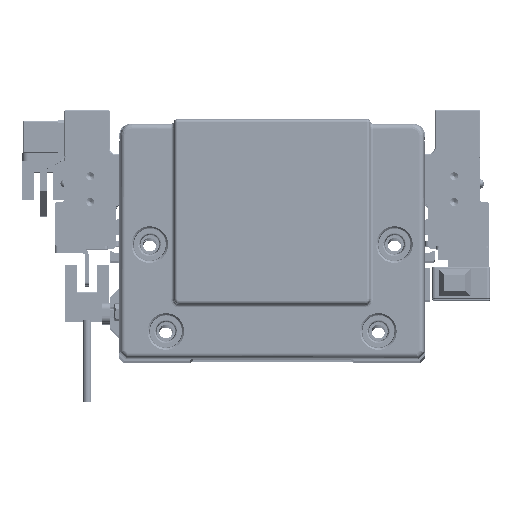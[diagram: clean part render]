
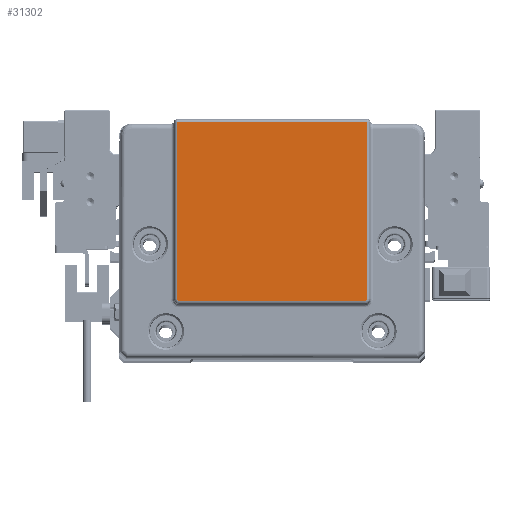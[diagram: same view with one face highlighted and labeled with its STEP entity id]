
A CAD part, top view. The second image highlights one B-rep face of the part: STEP entity #31302.
In plain terms, the highlighted planar face has unit normal (0, 0, 1) as drawn and (0, 0, -1) by its records, which use the part's own axes.
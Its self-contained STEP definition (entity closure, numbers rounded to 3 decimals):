
#753 = B_SPLINE_CURVE_WITH_KNOTS ( 'NONE', 3,
 ( #13973, #25756, #64792, #1465, #24625, #70820, #18922, #35976, #12861, #59100, #36340, #71582, #53803, #19679, #37100, #59470, #7541, #48123, #30660, #1840, #71193, #19310, #42807, #36716, #8297 ),
 .UNSPECIFIED., .F., .F.,
 ( 4, 2, 1, 1, 1, 1, 2, 2, 2, 2, 2, 1, 2, 2, 4 ),
 ( 0., 0.25, 0.375, 0.438, 0.469, 0.484, 0.492, 0.5, 0.625, 0.688, 0.719, 0.734, 0.742, 0.75, 1. ),
 .UNSPECIFIED. ) ;
#1465 = CARTESIAN_POINT ( 'NONE',  ( 29.158, -19.18, -2. ) ) ;
#1840 = CARTESIAN_POINT ( 'NONE',  ( 29.395, -18.93, -2. ) ) ;
#2114 = VERTEX_POINT ( 'NONE', #20404 ) ;
#2190 = CARTESIAN_POINT ( 'NONE',  ( -29.209, -19.151, -2. ) ) ;
#2569 = CARTESIAN_POINT ( 'NONE',  ( -29.18, -19.169, -2. ) ) ;
#3475 = VECTOR ( 'NONE', #7143, 1000. ) ;
#7143 = DIRECTION ( 'NONE',  ( 0., 1., 0. ) ) ;
#7508 = VERTEX_POINT ( 'NONE', #67012 ) ;
#7541 = CARTESIAN_POINT ( 'NONE',  ( 29.378, -18.966, -2. ) ) ;
#8297 = CARTESIAN_POINT ( 'NONE',  ( 29.435, -18.732, -2. ) ) ;
#10029 = B_SPLINE_CURVE_WITH_KNOTS ( 'NONE', 3,
 ( #53042, #54156, #42405, #53779, #35954, #36691, #59818, #24231, #31009, #65508, #54536, #31396, #42029, #60189, #2190, #2569, #18900, #25350, #48479, #36322, #70431, #71553, #41663, #25730, #48859 ),
 .UNSPECIFIED., .F., .F.,
 ( 4, 2, 1, 1, 1, 1, 2, 2, 2, 2, 2, 1, 2, 2, 4 ),
 ( 0., 0.25, 0.375, 0.437, 0.469, 0.484, 0.492, 0.5, 0.625, 0.687, 0.719, 0.734, 0.742, 0.75, 1. ),
 .UNSPECIFIED. ) ;
#12861 = CARTESIAN_POINT ( 'NONE',  ( 29.283, -19.092, -2. ) ) ;
#13973 = CARTESIAN_POINT ( 'NONE',  ( 28.935, -19.232, -2. ) ) ;
#18637 = EDGE_CURVE ( 'NONE', #21607, #62158, #73304, .T. ) ;
#18900 = CARTESIAN_POINT ( 'NONE',  ( -29.169, -19.175, -2. ) ) ;
#18922 = CARTESIAN_POINT ( 'NONE',  ( 29.268, -19.105, -2. ) ) ;
#19310 = CARTESIAN_POINT ( 'NONE',  ( 29.399, -18.919, -2. ) ) ;
#19679 = CARTESIAN_POINT ( 'NONE',  ( 29.343, -19.023, -2. ) ) ;
#20404 = CARTESIAN_POINT ( 'NONE',  ( -29.435, -18.732, -2. ) ) ;
#20415 = ORIENTED_EDGE ( 'NONE', *, *, #18637, .T. ) ;
#21607 = VERTEX_POINT ( 'NONE', #74668 ) ;
#21784 = DIRECTION ( 'NONE',  ( 0., -1., 0. ) ) ;
#24231 = CARTESIAN_POINT ( 'NONE',  ( -29.299, -19.076, -2. ) ) ;
#24625 = CARTESIAN_POINT ( 'NONE',  ( 29.201, -19.157, -2. ) ) ;
#24772 = AXIS2_PLACEMENT_3D ( 'NONE', #34413, #46170, #44688 ) ;
#25350 = CARTESIAN_POINT ( 'NONE',  ( -29.151, -19.183, -2. ) ) ;
#25730 = CARTESIAN_POINT ( 'NONE',  ( -28.988, -19.232, -2. ) ) ;
#25756 = CARTESIAN_POINT ( 'NONE',  ( 29.003, -19.232, -2. ) ) ;
#26485 = VECTOR ( 'NONE', #32273, 1000. ) ;
#27460 = CARTESIAN_POINT ( 'NONE',  ( 29.435, 0., -2. ) ) ;
#28351 = FACE_OUTER_BOUND ( 'NONE', #56108, .T. ) ;
#30266 = LINE ( 'NONE', #70789, #3475 ) ;
#30660 = CARTESIAN_POINT ( 'NONE',  ( 29.391, -18.939, -2. ) ) ;
#31009 = CARTESIAN_POINT ( 'NONE',  ( -29.294, -19.08, -2. ) ) ;
#31175 = EDGE_CURVE ( 'NONE', #55257, #21607, #41708, .T. ) ;
#31302 = ADVANCED_FACE ( 'NONE', ( #28351 ), #68521, .T. ) ;
#31396 = CARTESIAN_POINT ( 'NONE',  ( -29.282, -19.093, -2. ) ) ;
#32273 = DIRECTION ( 'NONE',  ( -1., 0., 0. ) ) ;
#33767 = LINE ( 'NONE', #61841, #26485 ) ;
#34413 = CARTESIAN_POINT ( 'NONE',  ( 0., 0., -2. ) ) ;
#35954 = CARTESIAN_POINT ( 'NONE',  ( -29.36, -18.998, -2. ) ) ;
#35976 = CARTESIAN_POINT ( 'NONE',  ( 29.279, -19.096, -2. ) ) ;
#36001 = CARTESIAN_POINT ( 'NONE',  ( 0., 36.185, -2. ) ) ;
#36322 = CARTESIAN_POINT ( 'NONE',  ( -29.133, -19.192, -2. ) ) ;
#36340 = CARTESIAN_POINT ( 'NONE',  ( 29.288, -19.086, -2. ) ) ;
#36691 = CARTESIAN_POINT ( 'NONE',  ( -29.326, -19.044, -2. ) ) ;
#36716 = CARTESIAN_POINT ( 'NONE',  ( 29.435, -18.785, -2. ) ) ;
#37100 = CARTESIAN_POINT ( 'NONE',  ( 29.354, -19.006, -2. ) ) ;
#39464 = EDGE_CURVE ( 'NONE', #42742, #62158, #753, .T. ) ;
#41254 = ORIENTED_EDGE ( 'NONE', *, *, #56857, .T. ) ;
#41663 = CARTESIAN_POINT ( 'NONE',  ( -29.051, -19.224, -2. ) ) ;
#41708 = LINE ( 'NONE', #36001, #68345 ) ;
#42029 = CARTESIAN_POINT ( 'NONE',  ( -29.266, -19.109, -2. ) ) ;
#42095 = VECTOR ( 'NONE', #21784, 1000. ) ;
#42405 = CARTESIAN_POINT ( 'NONE',  ( -29.421, -18.866, -2. ) ) ;
#42742 = VERTEX_POINT ( 'NONE', #46796 ) ;
#42807 = CARTESIAN_POINT ( 'NONE',  ( 29.427, -18.849, -2. ) ) ;
#44688 = DIRECTION ( 'NONE',  ( -1., 0., 0. ) ) ;
#46170 = DIRECTION ( 'NONE',  ( 0., 0., -1. ) ) ;
#46584 = EDGE_CURVE ( 'NONE', #2114, #55257, #30266, .T. ) ;
#46796 = CARTESIAN_POINT ( 'NONE',  ( 28.935, -19.232, -2. ) ) ;
#48123 = CARTESIAN_POINT ( 'NONE',  ( 29.386, -18.948, -2. ) ) ;
#48479 = CARTESIAN_POINT ( 'NONE',  ( -29.142, -19.188, -2. ) ) ;
#48859 = CARTESIAN_POINT ( 'NONE',  ( -28.935, -19.232, -2. ) ) ;
#50648 = CARTESIAN_POINT ( 'NONE',  ( 29.435, -18.732, -2. ) ) ;
#53042 = CARTESIAN_POINT ( 'NONE',  ( -29.435, -18.732, -2. ) ) ;
#53779 = CARTESIAN_POINT ( 'NONE',  ( -29.383, -18.956, -2. ) ) ;
#53803 = CARTESIAN_POINT ( 'NONE',  ( 29.312, -19.063, -2. ) ) ;
#54156 = CARTESIAN_POINT ( 'NONE',  ( -29.435, -18.801, -2. ) ) ;
#54536 = CARTESIAN_POINT ( 'NONE',  ( -29.289, -19.086, -2. ) ) ;
#55257 = VERTEX_POINT ( 'NONE', #56213 ) ;
#55333 = ORIENTED_EDGE ( 'NONE', *, *, #46584, .T. ) ;
#56108 = EDGE_LOOP ( 'NONE', ( #55333, #73059, #20415, #60829, #41254, #58716 ) ) ;
#56213 = CARTESIAN_POINT ( 'NONE',  ( -29.435, 36.185, -2. ) ) ;
#56857 = EDGE_CURVE ( 'NONE', #42742, #7508, #33767, .T. ) ;
#58716 = ORIENTED_EDGE ( 'NONE', *, *, #63963, .F. ) ;
#59100 = CARTESIAN_POINT ( 'NONE',  ( 29.286, -19.089, -2. ) ) ;
#59119 = DIRECTION ( 'NONE',  ( 1., 0., 0. ) ) ;
#59470 = CARTESIAN_POINT ( 'NONE',  ( 29.372, -18.977, -2. ) ) ;
#59818 = CARTESIAN_POINT ( 'NONE',  ( -29.308, -19.065, -2. ) ) ;
#60189 = CARTESIAN_POINT ( 'NONE',  ( -29.226, -19.14, -2. ) ) ;
#60829 = ORIENTED_EDGE ( 'NONE', *, *, #39464, .F. ) ;
#61841 = CARTESIAN_POINT ( 'NONE',  ( 0., -19.232, -2. ) ) ;
#62158 = VERTEX_POINT ( 'NONE', #50648 ) ;
#63963 = EDGE_CURVE ( 'NONE', #2114, #7508, #10029, .T. ) ;
#64792 = CARTESIAN_POINT ( 'NONE',  ( 29.069, -19.218, -2. ) ) ;
#65508 = CARTESIAN_POINT ( 'NONE',  ( -29.292, -19.083, -2. ) ) ;
#67012 = CARTESIAN_POINT ( 'NONE',  ( -28.935, -19.232, -2. ) ) ;
#68345 = VECTOR ( 'NONE', #59119, 1000. ) ;
#68521 = PLANE ( 'NONE',  #24772 ) ;
#70431 = CARTESIAN_POINT ( 'NONE',  ( -29.126, -19.195, -2. ) ) ;
#70789 = CARTESIAN_POINT ( 'NONE',  ( -29.435, 0., -2. ) ) ;
#70820 = CARTESIAN_POINT ( 'NONE',  ( 29.247, -19.124, -2. ) ) ;
#71193 = CARTESIAN_POINT ( 'NONE',  ( 29.397, -18.923, -2. ) ) ;
#71553 = CARTESIAN_POINT ( 'NONE',  ( -29.121, -19.196, -2. ) ) ;
#71582 = CARTESIAN_POINT ( 'NONE',  ( 29.296, -19.079, -2. ) ) ;
#73059 = ORIENTED_EDGE ( 'NONE', *, *, #31175, .T. ) ;
#73304 = LINE ( 'NONE', #27460, #42095 ) ;
#74668 = CARTESIAN_POINT ( 'NONE',  ( 29.435, 36.185, -2. ) ) ;
